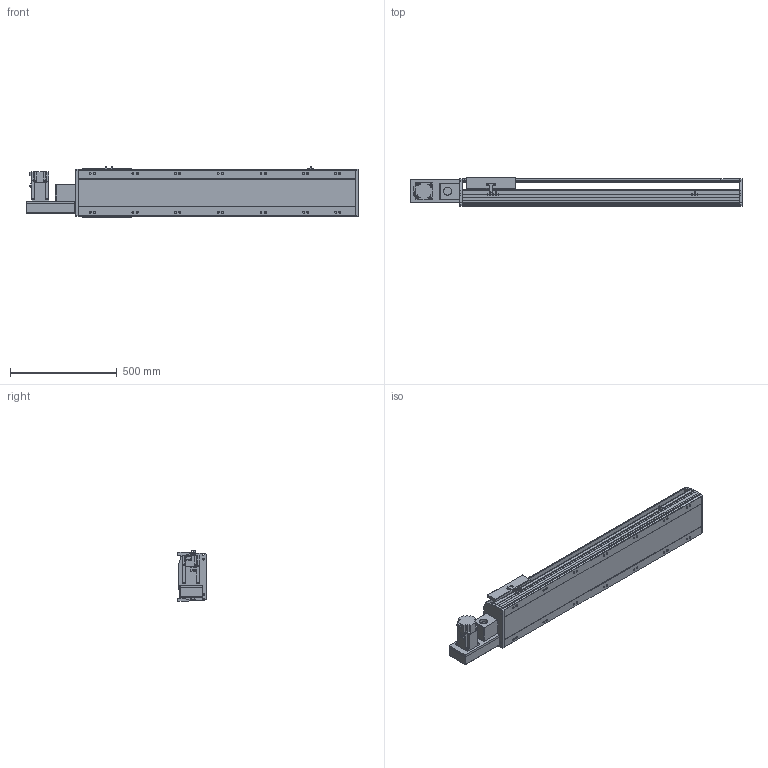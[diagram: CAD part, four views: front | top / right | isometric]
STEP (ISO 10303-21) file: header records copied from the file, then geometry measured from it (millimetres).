
FILE_DESCRIPTION(/* description */ ('STEP AP214'),/* implementation_level */ '2;1');
FILE_NAME(/* name */ 'PBS220-P40-S950-L-T75-C1-N(0)',/* time_stamp */ '2022-06-11T09:55:39+02:00',/* author */ ('License CC BY-ND 4.0'),/* organization */ ('CADENAS'),/* preprocessor_version */ 'ST-DEVELOPER v18.102',/* originating_system */ 'PARTsolutions',/* authorisation */ ' ');
FILE_SCHEMA (('AUTOMOTIVE_DESIGN {1 0 10303 214 3 1 1}'));
Length unit declared in the file: millimetre
Products named in the file (7): PBS220-P40-S950-L-T75-C1-N(0); PBS220_sensor; PBS220_plant; PBS220_sliser; T75-p1; PBS220T-L_motors; PBS220-S950()_body
Assembly tree (8 placements, depth 2):
  PBS220-P40-S950-L-T75-C1-N(0)
    PBS220_sensor  x3
    PBS220_plant
    PBS220_sliser
    T75-p1
    PBS220T-L_motors
    PBS220-S950()_body
Bounding box: 1556 x 134 x 238.5 mm (x, y, z)
Volume: 20785646.5 mm3; surface area: 2042479.6 mm2
Topology: 8 solids, 8 shells, 902 faces, 2368 edges, 1540 vertices
Faces by surface type: plane 594, cylinder 270, cone 38
Full cylindrical faces by diameter (mm): 2.013 x4, 4.5 x14, 4.917 x4, 6 x7, 6.647 x8, 8 x10, 8.376 x14, 8.5 x14, 10 x6, 14 x14, 38 x2, 40 x1, 70 x1
Entity records: 25317 total; most frequent: CARTESIAN_POINT 4426, DIRECTION 4401, ORIENTED_EDGE 4070, EDGE_CURVE 2035, AXIS2_PLACEMENT_3D 1529, VERTEX_POINT 1400, LINE 1343, VECTOR 1343
